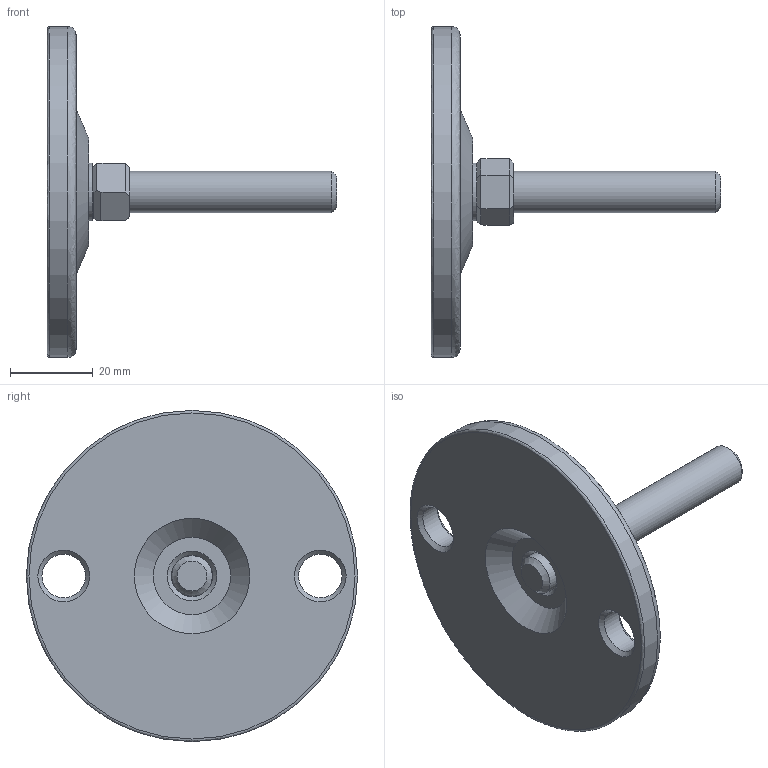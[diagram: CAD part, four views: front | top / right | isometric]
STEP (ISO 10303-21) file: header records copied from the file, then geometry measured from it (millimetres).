
FILE_DESCRIPTION(('STEP AP203'),'2;1');
FILE_NAME('15500-10.stp','2015-09-11T10:50:30',(''),(''),'2008.1.107','THINKDESIGN','');
FILE_SCHEMA(('CONFIG_CONTROL_DESIGN'));
Length unit declared in the file: millimetre
Bounding box: 70 x 80 x 80 mm (x, y, z)
Volume: 39962.7 mm3; surface area: 14911.6 mm2
Topology: 5 solids, 5 shells, 49 faces, 121 edges, 84 vertices
Faces by surface type: bspline 24, plane 18, cylinder 7
Full cylindrical faces by diameter (mm): 9.8 x1, 10 x2, 10.5 x2, 14 x1, 80 x1
Entity records: 2580 total; most frequent: CARTESIAN_POINT 1321, ORIENTED_EDGE 242, DIRECTION 229, EDGE_CURVE 121, VERTEX_POINT 84, AXIS2_PLACEMENT_3D 84, VECTOR 61, LINE 61
